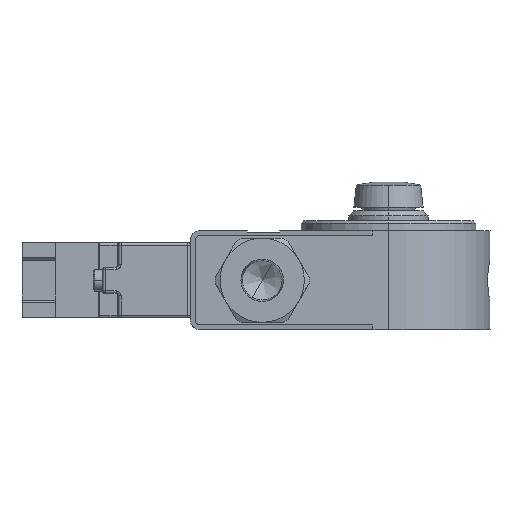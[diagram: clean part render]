
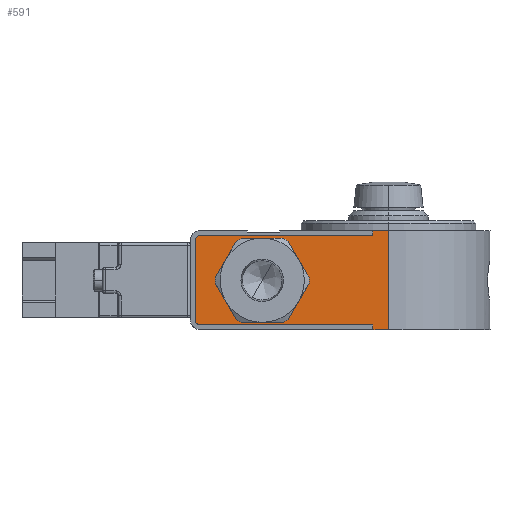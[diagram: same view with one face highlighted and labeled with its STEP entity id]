
A CAD part, left-side view. The second image highlights one B-rep face of the part: STEP entity #591.
In plain terms, the highlighted planar face has unit normal (-1, 0, 0).
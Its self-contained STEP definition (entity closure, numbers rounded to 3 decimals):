
#591=ADVANCED_FACE('',(#1411,#1412),#1410,.F.);
#1410=PLANE('',#6195);
#1411=FACE_OUTER_BOUND('',#6196,.T.);
#1412=FACE_BOUND('',#6197,.T.);
#6192=CARTESIAN_POINT('',(0.,-43.909,-2.));
#6193=DIRECTION('',(1.,0.,0.));
#6194=DIRECTION('',(0.,1.,0.));
#6195=AXIS2_PLACEMENT_3D('',#6192,#6193,#6194);
#6196=EDGE_LOOP('',(#9352,#9353,#9354,#9355,#9356,#9357,#9358,#9359,#9360,#9361));
#6197=EDGE_LOOP('',(#9362,#9363));
#9352=ORIENTED_EDGE('',*,*,#11598,.F.);
#9353=ORIENTED_EDGE('',*,*,#11599,.T.);
#9354=ORIENTED_EDGE('',*,*,#11548,.F.);
#9355=ORIENTED_EDGE('',*,*,#11600,.T.);
#9356=ORIENTED_EDGE('',*,*,#11486,.T.);
#9357=ORIENTED_EDGE('',*,*,#11569,.T.);
#9358=ORIENTED_EDGE('',*,*,#11469,.T.);
#9359=ORIENTED_EDGE('',*,*,#11513,.F.);
#9360=ORIENTED_EDGE('',*,*,#11580,.F.);
#9361=ORIENTED_EDGE('',*,*,#11573,.F.);
#9362=ORIENTED_EDGE('',*,*,#11601,.F.);
#9363=ORIENTED_EDGE('',*,*,#11602,.F.);
#11469=EDGE_CURVE('',#12636,#12679,#12686,.T.);
#11486=EDGE_CURVE('',#12804,#12805,#12806,.T.);
#11513=EDGE_CURVE('',#12986,#12679,#12993,.T.);
#11548=EDGE_CURVE('',#13233,#13234,#13235,.T.);
#11569=EDGE_CURVE('',#12805,#12636,#13373,.T.);
#11573=EDGE_CURVE('',#13392,#13399,#13400,.T.);
#11580=EDGE_CURVE('',#13399,#12986,#13446,.T.);
#11598=EDGE_CURVE('',#13557,#13392,#13564,.T.);
#11599=EDGE_CURVE('',#13557,#13234,#13570,.T.);
#11600=EDGE_CURVE('',#13233,#12804,#13576,.T.);
#11601=EDGE_CURVE('',#13582,#13583,#13584,.T.);
#11602=EDGE_CURVE('',#13583,#13582,#13590,.T.);
#12636=VERTEX_POINT('',#20262);
#12679=VERTEX_POINT('',#20288);
#12686=LINE('',#20293,#20294);
#12804=VERTEX_POINT('',#20372);
#12805=VERTEX_POINT('',#20373);
#12806=LINE('',#20374,#20375);
#12986=VERTEX_POINT('',#20486);
#12993=LINE('',#20491,#20492);
#13233=VERTEX_POINT('',#20714);
#13234=VERTEX_POINT('',#20715);
#13235=LINE('',#20716,#20717);
#13373=LINE('',#20795,#20796);
#13392=VERTEX_POINT('',#20807);
#13399=VERTEX_POINT('',#20811);
#13400=LINE('',#20812,#20813);
#13446=LINE('',#20838,#20839);
#13557=VERTEX_POINT('',#20906);
#13564=LINE('',#20910,#20911);
#13570=CIRCLE('',#20916,1.);
#13576=CIRCLE('',#20920,1.);
#13582=VERTEX_POINT('',#20921);
#13583=VERTEX_POINT('',#20922);
#13584=CIRCLE('',#20926,7.5);
#13590=CIRCLE('',#20930,7.5);
#20262=CARTESIAN_POINT('',(0.,-36.863,0.));
#20288=CARTESIAN_POINT('',(0.,-40.008,0.));
#20293=CARTESIAN_POINT('',(0.,-36.863,0.));
#20294=VECTOR('',#20295,3.145);
#20295=DIRECTION('',(0.,-1.,0.));
#20372=CARTESIAN_POINT('',(0.,-2.,1.));
#20373=CARTESIAN_POINT('',(0.,-36.863,1.));
#20374=CARTESIAN_POINT('',(0.,-2.,1.));
#20375=VECTOR('',#20376,34.863);
#20376=DIRECTION('',(0.,-1.,0.));
#20486=CARTESIAN_POINT('',(0.,-40.008,20.));
#20491=CARTESIAN_POINT('',(0.,-40.008,20.));
#20492=VECTOR('',#20493,20.);
#20493=DIRECTION('',(0.,0.,-1.));
#20714=CARTESIAN_POINT('',(0.,-1.,2.));
#20715=CARTESIAN_POINT('',(0.,-1.,18.));
#20716=CARTESIAN_POINT('',(0.,-1.,2.));
#20717=VECTOR('',#20718,16.);
#20718=DIRECTION('',(0.,0.,1.));
#20795=CARTESIAN_POINT('',(0.,-36.863,1.));
#20796=VECTOR('',#20797,1.);
#20797=DIRECTION('',(0.,0.,-1.));
#20807=CARTESIAN_POINT('',(0.,-36.863,19.));
#20811=CARTESIAN_POINT('',(0.,-36.863,20.));
#20812=CARTESIAN_POINT('',(0.,-36.863,19.));
#20813=VECTOR('',#20814,1.);
#20814=DIRECTION('',(0.,0.,1.));
#20838=CARTESIAN_POINT('',(0.,-36.863,20.));
#20839=VECTOR('',#20840,3.145);
#20840=DIRECTION('',(0.,-1.,0.));
#20906=CARTESIAN_POINT('',(0.,-2.,19.));
#20910=CARTESIAN_POINT('',(0.,-2.,19.));
#20911=VECTOR('',#20912,34.863);
#20912=DIRECTION('',(0.,-1.,0.));
#20913=CARTESIAN_POINT('',(0.,-2.,18.));
#20914=DIRECTION('',(-1.,0.,0.));
#20915=DIRECTION('',(0.,0.,-1.));
#20916=AXIS2_PLACEMENT_3D('',#20913,#20914,#20915);
#20917=CARTESIAN_POINT('',(0.,-2.,2.));
#20918=DIRECTION('',(-1.,0.,0.));
#20919=DIRECTION('',(0.,-1.,0.));
#20920=AXIS2_PLACEMENT_3D('',#20917,#20918,#20919);
#20921=CARTESIAN_POINT('',(0.,-7.,10.));
#20922=CARTESIAN_POINT('',(0.,-22.,10.));
#20923=CARTESIAN_POINT('',(0.,-14.5,10.));
#20924=DIRECTION('',(-1.,0.,0.));
#20925=DIRECTION('',(0.,-1.,0.));
#20926=AXIS2_PLACEMENT_3D('',#20923,#20924,#20925);
#20927=CARTESIAN_POINT('',(0.,-14.5,10.));
#20928=DIRECTION('',(-1.,0.,0.));
#20929=DIRECTION('',(0.,-1.,0.));
#20930=AXIS2_PLACEMENT_3D('',#20927,#20928,#20929);
